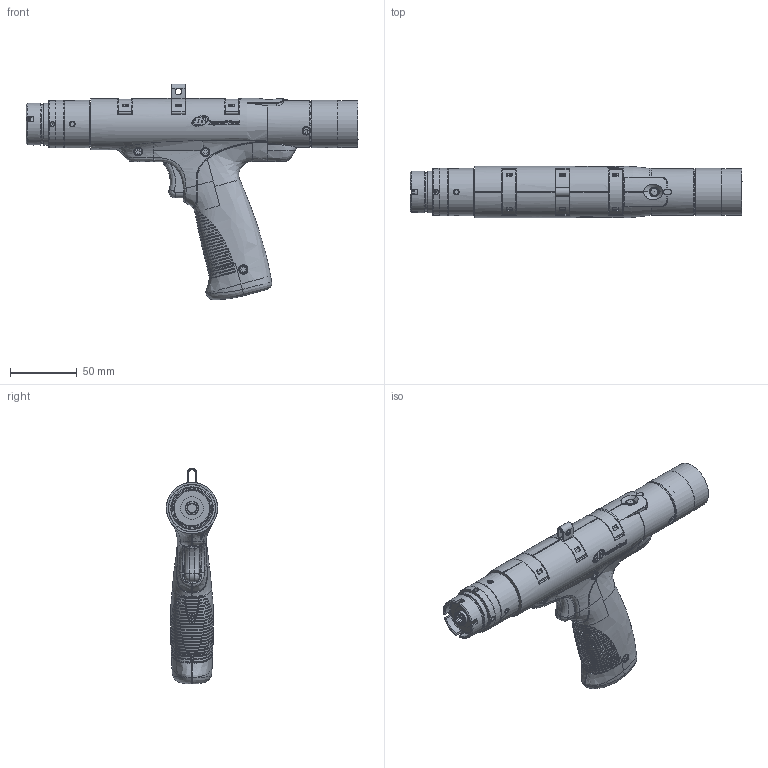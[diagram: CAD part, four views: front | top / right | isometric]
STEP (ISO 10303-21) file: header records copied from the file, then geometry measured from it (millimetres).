
FILE_DESCRIPTION(/* description */ (''),/* implementation_level */ '2;1');
FILE_NAME(/* name */ '16610404_A',/* time_stamp */ '2009-06-11T14:16:46-04:00',/* author */ (''),/* organization */ (''),/* preprocessor_version */ 'ST-DEVELOPER v9',/* originating_system */ 'UGS - NX 4.0',/* authorisation */ '');
FILE_SCHEMA (('CONFIG_CONTROL_DESIGN'));
Length unit declared in the file: millimetre
Products named in the file (1): jcheC03C35af
Bounding box: 248.7 x 38.44 x 161.61 mm (x, y, z)
Surface area: 59030.6 mm2 (no closed solid volume)
Topology: 0 solids, 1 shells, 1692 faces, 4489 edges, 2883 vertices
Faces by surface type: plane 518, bspline 405, cylinder 392, extrusion 133, torus 103, revolution 78, cone 43, sphere 20
Full cylindrical faces by diameter (mm): 1.575 x13, 2.362 x13, 3.38 x8, 5 x2, 5.5 x2, 5.8 x1, 6.3 x2, 6.35 x1, 7.3 x1, 9.525 x1, 10.16 x2, 17.03 x1, 28.71 x1, 31.382 x2, 33 x1, 33.8 x1, 35 x2, 35.45 x1, 35.454 x2, 35.5 x1
Entity records: 101143 total; most frequent: CARTESIAN_POINT 65130, ORIENTED_EDGE 8542, DIRECTION 5321, EDGE_CURVE 4271, VERTEX_POINT 2819, B_SPLINE_CURVE_WITH_KNOTS 2389, EDGE_LOOP 1962, AXIS2_PLACEMENT_3D 1943
